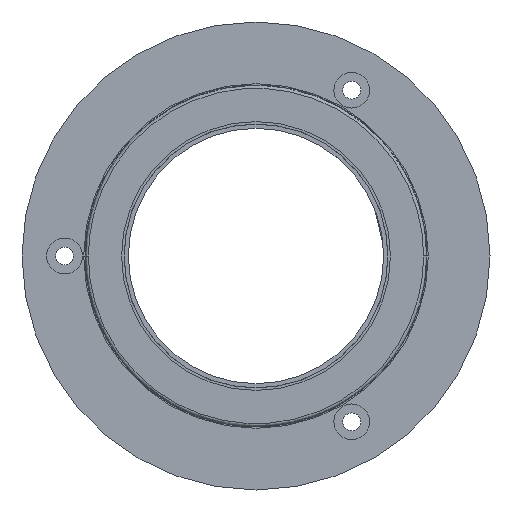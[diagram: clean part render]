
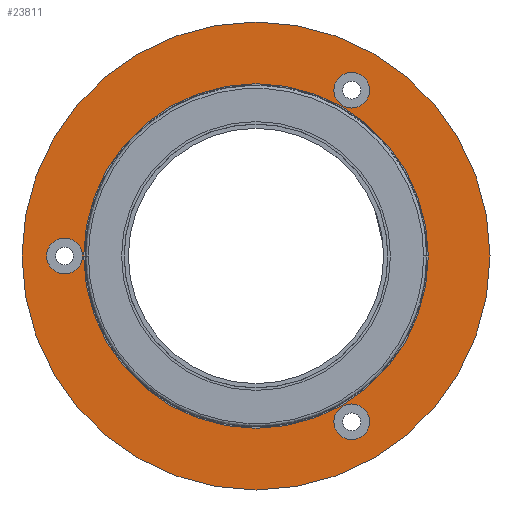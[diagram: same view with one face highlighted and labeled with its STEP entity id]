
A CAD part, left-side view. The second image highlights one B-rep face of the part: STEP entity #23811.
In plain terms, the highlighted planar face has unit normal (-1, 0, 0).
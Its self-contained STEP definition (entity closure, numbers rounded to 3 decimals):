
#276 = CARTESIAN_POINT ( 'NONE',  ( 2.8, 17.5, 0. ) ) ;
#341 = DIRECTION ( 'NONE',  ( -1., 0., 0. ) ) ;
#1453 = DIRECTION ( 'NONE',  ( 0., 1., 0. ) ) ;
#4166 = DIRECTION ( 'NONE',  ( 0., -1., 0. ) ) ;
#4225 = DIRECTION ( 'NONE',  ( 1., 0., 0. ) ) ;
#4545 = AXIS2_PLACEMENT_3D ( 'NONE', #79684, #85966, #64910 ) ;
#5478 = CIRCLE ( 'NONE', #19478, 2.1 ) ;
#8212 = CARTESIAN_POINT ( 'NONE',  ( 2.8, 17.5, 0. ) ) ;
#9538 = VERTEX_POINT ( 'NONE', #81444 ) ;
#10275 = AXIS2_PLACEMENT_3D ( 'NONE', #80800, #49311, #4166 ) ;
#11037 = FACE_BOUND ( 'NONE', #51347, .T. ) ;
#11389 = EDGE_CURVE ( 'NONE', #73115, #67130, #71760, .T. ) ;
#15342 = DIRECTION ( 'NONE',  ( 1., 0., 0. ) ) ;
#15809 = EDGE_CURVE ( 'NONE', #9538, #25784, #85560, .T. ) ;
#16866 = ORIENTED_EDGE ( 'NONE', *, *, #83936, .T. ) ;
#19478 = AXIS2_PLACEMENT_3D ( 'NONE', #37318, #67877, #60625 ) ;
#19714 = EDGE_CURVE ( 'NONE', #48912, #54969, #90506, .T. ) ;
#19778 = CARTESIAN_POINT ( 'NONE',  ( 2.8, 0., 0. ) ) ;
#20207 = ORIENTED_EDGE ( 'NONE', *, *, #15809, .T. ) ;
#20546 = ORIENTED_EDGE ( 'NONE', *, *, #19714, .T. ) ;
#20789 = VERTEX_POINT ( 'NONE', #75348 ) ;
#21110 = AXIS2_PLACEMENT_3D ( 'NONE', #19778, #80618, #26735 ) ;
#23811 = ADVANCED_FACE ( 'NONE', ( #93479, #78149, #25199, #95824, #11037 ), #67827, .T. ) ;
#24574 = AXIS2_PLACEMENT_3D ( 'NONE', #69201, #68878, #69530 ) ;
#25199 = FACE_BOUND ( 'NONE', #96380, .T. ) ;
#25366 = EDGE_CURVE ( 'NONE', #66055, #41267, #93194, .T. ) ;
#25542 = DIRECTION ( 'NONE',  ( 0., 1., 0. ) ) ;
#25784 = VERTEX_POINT ( 'NONE', #73531 ) ;
#26201 = CARTESIAN_POINT ( 'NONE',  ( 2.8, 0., 0. ) ) ;
#26735 = DIRECTION ( 'NONE',  ( 0., 1., 0. ) ) ;
#26913 = EDGE_CURVE ( 'NONE', #67130, #73115, #57383, .T. ) ;
#27968 = CARTESIAN_POINT ( 'NONE',  ( 2.8, 27.5, 0. ) ) ;
#28640 = CARTESIAN_POINT ( 'NONE',  ( 2.8, 20.4, 0. ) ) ;
#30645 = CARTESIAN_POINT ( 'NONE',  ( 2.8, 24.6, 0. ) ) ;
#30821 = DIRECTION ( 'NONE',  ( 1., 0., 0. ) ) ;
#31154 = CARTESIAN_POINT ( 'NONE',  ( 2.8, 0., 0. ) ) ;
#31560 = ORIENTED_EDGE ( 'NONE', *, *, #70078, .T. ) ;
#34292 = AXIS2_PLACEMENT_3D ( 'NONE', #31154, #15342, #84081 ) ;
#37171 = CARTESIAN_POINT ( 'NONE',  ( 2.8, -11.25, -19.486 ) ) ;
#37318 = CARTESIAN_POINT ( 'NONE',  ( 2.8, 22.5, 0. ) ) ;
#37376 = ORIENTED_EDGE ( 'NONE', *, *, #91961, .T. ) ;
#39097 = CIRCLE ( 'NONE', #10275, 2.1 ) ;
#40062 = DIRECTION ( 'NONE',  ( 1., 0., 0. ) ) ;
#41267 = VERTEX_POINT ( 'NONE', #276 ) ;
#43230 = EDGE_CURVE ( 'NONE', #41267, #66055, #80437, .T. ) ;
#44342 = EDGE_LOOP ( 'NONE', ( #16866, #31560 ) ) ;
#45595 = CARTESIAN_POINT ( 'NONE',  ( 2.8, -13.35, -19.486 ) ) ;
#45679 = VERTEX_POINT ( 'NONE', #45595 ) ;
#46130 = ORIENTED_EDGE ( 'NONE', *, *, #43230, .T. ) ;
#48912 = VERTEX_POINT ( 'NONE', #28640 ) ;
#49311 = DIRECTION ( 'NONE',  ( 1., 0., 0. ) ) ;
#51347 = EDGE_LOOP ( 'NONE', ( #20546, #37376 ) ) ;
#54719 = AXIS2_PLACEMENT_3D ( 'NONE', #76478, #69601, #1453 ) ;
#54969 = VERTEX_POINT ( 'NONE', #30645 ) ;
#55143 = CIRCLE ( 'NONE', #66389, 2.1 ) ;
#56472 = CARTESIAN_POINT ( 'NONE',  ( 2.8, -27.5, 0. ) ) ;
#57383 = CIRCLE ( 'NONE', #54719, 27.5 ) ;
#60339 = AXIS2_PLACEMENT_3D ( 'NONE', #26201, #40062, #25542 ) ;
#60625 = DIRECTION ( 'NONE',  ( 0., -1., 0. ) ) ;
#62503 = ORIENTED_EDGE ( 'NONE', *, *, #25366, .T. ) ;
#64910 = DIRECTION ( 'NONE',  ( 0., -1., 0. ) ) ;
#66055 = VERTEX_POINT ( 'NONE', #87949 ) ;
#66389 = AXIS2_PLACEMENT_3D ( 'NONE', #94078, #4225, #86817 ) ;
#67130 = VERTEX_POINT ( 'NONE', #27968 ) ;
#67827 = PLANE ( 'NONE',  #83476 ) ;
#67877 = DIRECTION ( 'NONE',  ( 1., 0., 0. ) ) ;
#68878 = DIRECTION ( 'NONE',  ( 1., 0., 0. ) ) ;
#69201 = CARTESIAN_POINT ( 'NONE',  ( 2.8, -11.25, 19.486 ) ) ;
#69530 = DIRECTION ( 'NONE',  ( 0., -1., 0. ) ) ;
#69593 = EDGE_CURVE ( 'NONE', #25784, #9538, #55143, .T. ) ;
#69601 = DIRECTION ( 'NONE',  ( -1., 0., 0. ) ) ;
#70078 = EDGE_CURVE ( 'NONE', #20789, #45679, #81991, .T. ) ;
#71760 = CIRCLE ( 'NONE', #21110, 27.5 ) ;
#73115 = VERTEX_POINT ( 'NONE', #56472 ) ;
#73531 = CARTESIAN_POINT ( 'NONE',  ( 2.8, -9.15, 19.486 ) ) ;
#75348 = CARTESIAN_POINT ( 'NONE',  ( 2.8, -9.15, -19.486 ) ) ;
#76401 = EDGE_LOOP ( 'NONE', ( #82995, #89885 ) ) ;
#76478 = CARTESIAN_POINT ( 'NONE',  ( 2.8, 0., 0. ) ) ;
#78149 = FACE_BOUND ( 'NONE', #94461, .T. ) ;
#79684 = CARTESIAN_POINT ( 'NONE',  ( 2.8, 22.5, 0. ) ) ;
#80437 = CIRCLE ( 'NONE', #34292, 17.5 ) ;
#80618 = DIRECTION ( 'NONE',  ( -1., 0., 0. ) ) ;
#80800 = CARTESIAN_POINT ( 'NONE',  ( 2.8, -11.25, -19.486 ) ) ;
#81444 = CARTESIAN_POINT ( 'NONE',  ( 2.8, -13.35, 19.486 ) ) ;
#81991 = CIRCLE ( 'NONE', #84622, 2.1 ) ;
#82144 = DIRECTION ( 'NONE',  ( 0., -1., 0. ) ) ;
#82879 = DIRECTION ( 'NONE',  ( 0., -1., 0. ) ) ;
#82995 = ORIENTED_EDGE ( 'NONE', *, *, #26913, .T. ) ;
#83476 = AXIS2_PLACEMENT_3D ( 'NONE', #8212, #341, #82879 ) ;
#83848 = ORIENTED_EDGE ( 'NONE', *, *, #69593, .T. ) ;
#83936 = EDGE_CURVE ( 'NONE', #45679, #20789, #39097, .T. ) ;
#84081 = DIRECTION ( 'NONE',  ( 0., 1., 0. ) ) ;
#84622 = AXIS2_PLACEMENT_3D ( 'NONE', #37171, #30821, #82144 ) ;
#85560 = CIRCLE ( 'NONE', #24574, 2.1 ) ;
#85966 = DIRECTION ( 'NONE',  ( 1., 0., 0. ) ) ;
#86817 = DIRECTION ( 'NONE',  ( 0., -1., 0. ) ) ;
#87949 = CARTESIAN_POINT ( 'NONE',  ( 2.8, -17.5, 0. ) ) ;
#89885 = ORIENTED_EDGE ( 'NONE', *, *, #11389, .T. ) ;
#90506 = CIRCLE ( 'NONE', #4545, 2.1 ) ;
#91961 = EDGE_CURVE ( 'NONE', #54969, #48912, #5478, .T. ) ;
#93194 = CIRCLE ( 'NONE', #60339, 17.5 ) ;
#93479 = FACE_OUTER_BOUND ( 'NONE', #76401, .T. ) ;
#94078 = CARTESIAN_POINT ( 'NONE',  ( 2.8, -11.25, 19.486 ) ) ;
#94461 = EDGE_LOOP ( 'NONE', ( #46130, #62503 ) ) ;
#95824 = FACE_BOUND ( 'NONE', #44342, .T. ) ;
#96380 = EDGE_LOOP ( 'NONE', ( #20207, #83848 ) ) ;
